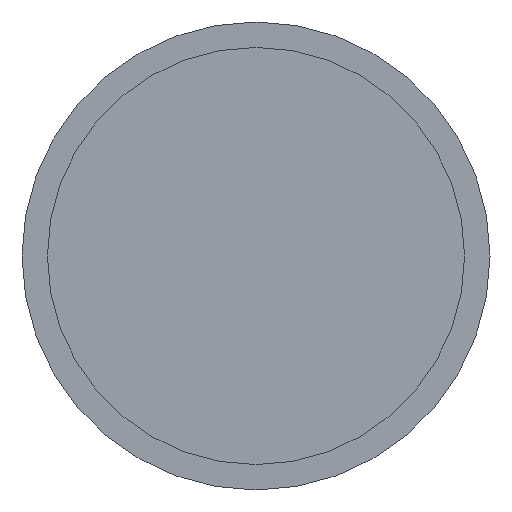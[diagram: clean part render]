
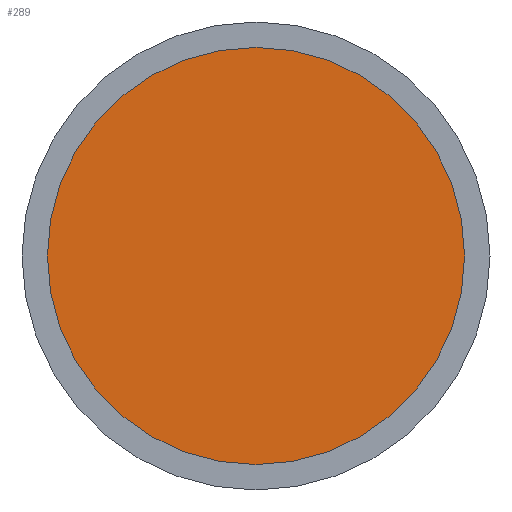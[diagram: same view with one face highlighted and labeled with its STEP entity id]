
A CAD part, front view. The second image highlights one B-rep face of the part: STEP entity #289.
In plain terms, the highlighted planar face has unit normal (0, -1, 0).
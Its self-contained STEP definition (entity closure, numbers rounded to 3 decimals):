
#220 = CYLINDRICAL_SURFACE('',#221,2.05);
#221 = AXIS2_PLACEMENT_3D('',#222,#223,#224);
#222 = CARTESIAN_POINT('',(0.,1.7,73.5));
#223 = DIRECTION('',(0.,1.,0.));
#224 = DIRECTION('',(1.,0.,0.));
#240 = VERTEX_POINT('',#241);
#241 = CARTESIAN_POINT('',(2.05,1.7,73.5));
#262 = EDGE_CURVE('',#240,#240,#263,.T.);
#263 = SURFACE_CURVE('',#264,(#269,#276),.PCURVE_S1.);
#264 = CIRCLE('',#265,2.05);
#265 = AXIS2_PLACEMENT_3D('',#266,#267,#268);
#266 = CARTESIAN_POINT('',(0.,1.7,73.5));
#267 = DIRECTION('',(-0.,1.,0.));
#268 = DIRECTION('',(1.,0.,0.));
#269 = PCURVE('',#220,#270);
#270 = DEFINITIONAL_REPRESENTATION('',(#271),#275);
#271 = LINE('',#272,#273);
#272 = CARTESIAN_POINT('',(0.,0.));
#273 = VECTOR('',#274,1.);
#274 = DIRECTION('',(1.,0.));
#275 = ( GEOMETRIC_REPRESENTATION_CONTEXT(2) 
PARAMETRIC_REPRESENTATION_CONTEXT() REPRESENTATION_CONTEXT('2D SPACE',''
  ) );
#276 = PCURVE('',#277,#282);
#277 = PLANE('',#278);
#278 = AXIS2_PLACEMENT_3D('',#279,#280,#281);
#279 = CARTESIAN_POINT('',(0.,1.7,73.5));
#280 = DIRECTION('',(0.,1.,0.));
#281 = DIRECTION('',(1.,0.,0.));
#282 = DEFINITIONAL_REPRESENTATION('',(#283),#287);
#283 = CIRCLE('',#284,2.05);
#284 = AXIS2_PLACEMENT_2D('',#285,#286);
#285 = CARTESIAN_POINT('',(0.,0.));
#286 = DIRECTION('',(1.,0.));
#287 = ( GEOMETRIC_REPRESENTATION_CONTEXT(2) 
PARAMETRIC_REPRESENTATION_CONTEXT() REPRESENTATION_CONTEXT('2D SPACE',''
  ) );
#289 = ADVANCED_FACE('',(#290),#277,.F.);
#290 = FACE_BOUND('',#291,.T.);
#291 = EDGE_LOOP('',(#292));
#292 = ORIENTED_EDGE('',*,*,#262,.F.);
